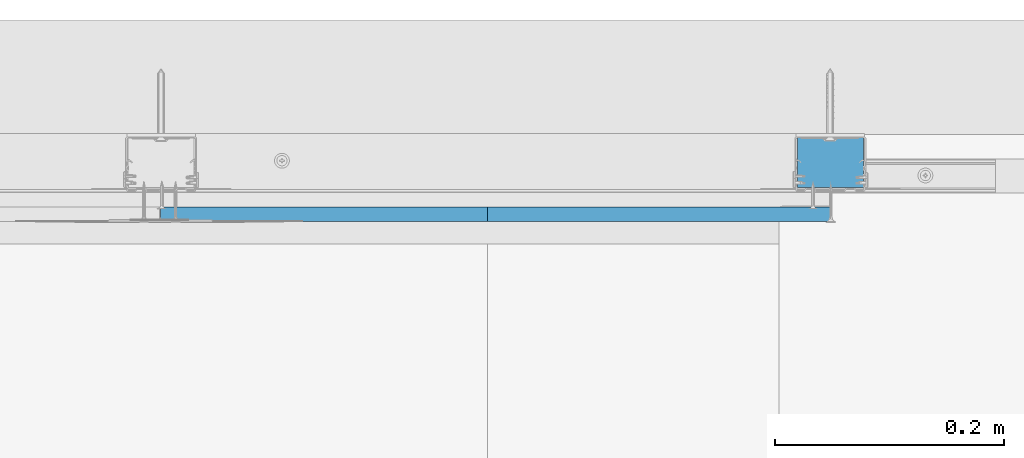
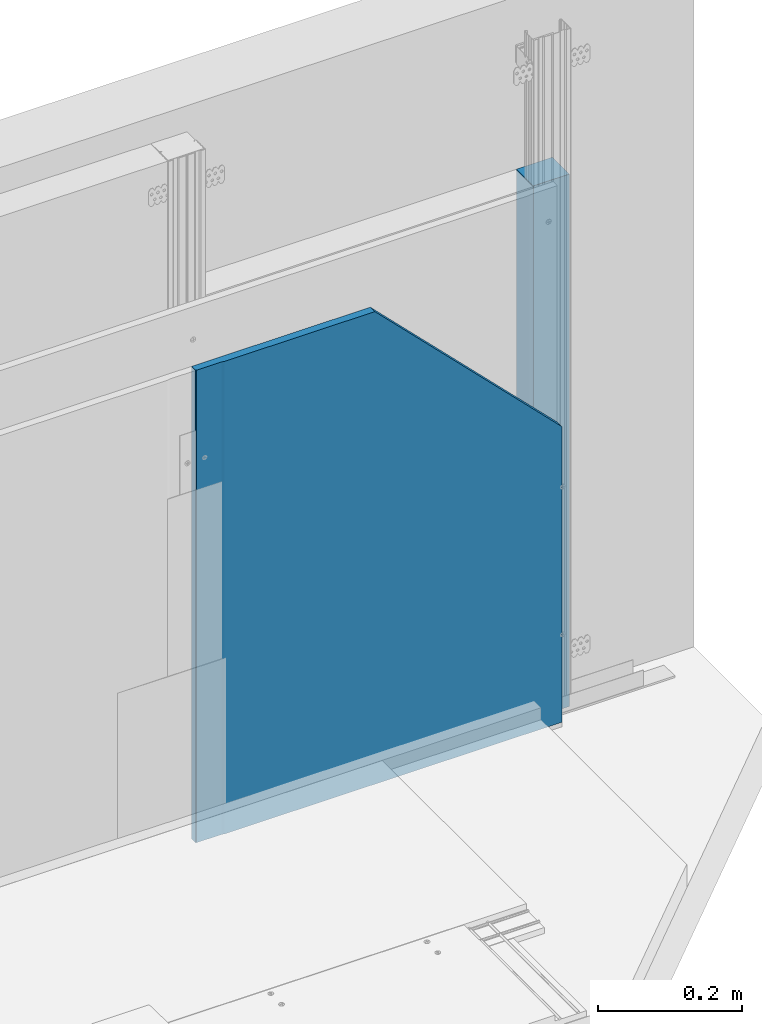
# One storey, part 18 of 47: 2 walls.
"""IFC2X3 building model written with IfcOpenShell, lengths in millimetres."""

from ifc_helpers import new_model, entity, si_unit, converted_unit, direction, frame, origin, origin_with_axes, place, context, project, spatial, faceted_brep, element, save


model = new_model("IFC2X3")

# Units and contexts
model_context = context("Model", 3, precision=1e-05, world=origin(), true_north=direction((0.0, 1.0, 0.0)))
ifc_project = project(units=[si_unit("LENGTHUNIT", "METRE", prefix="MILLI"), si_unit("AREAUNIT", "SQUARE_METRE"), si_unit("VOLUMEUNIT", "CUBIC_METRE"), converted_unit("PLANEANGLEUNIT", "DEGREE", entity("IfcPlaneAngleMeasure", 0.01745), si_unit("PLANEANGLEUNIT", "RADIAN"), dimensions=[0, 0, 0, 0, 0, 0, 0]), si_unit("SOLIDANGLEUNIT", "STERADIAN"), si_unit("MASSUNIT", "GRAM"), si_unit("TIMEUNIT", "SECOND"), si_unit("THERMODYNAMICTEMPERATUREUNIT", "DEGREE_CELSIUS"), si_unit("LUMINOUSINTENSITYUNIT", "LUMEN")], contexts=[model_context])

# Site, building, storey
site_placement = place(None, origin_with_axes())
site = spatial("IfcSite", under=ifc_project, at=site_placement, Name="Default Site", CompositionType="ELEMENT")
building_placement = place(site_placement, origin_with_axes())
building = spatial("IfcBuilding", under=site, at=building_placement, Name="Default Building", CompositionType="ELEMENT")
storey_placement = place(building_placement, origin_with_axes())
storey = spatial("IfcBuildingStorey", under=building, at=storey_placement, Name="Default Building Storey", CompositionType="ELEMENT", Elevation=0.0)

# Walls
wall_1_placement = place(storey_placement, frame((2902.506370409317, 1958.680077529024, 1059.999999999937), z_axis=(0.0, 0.0, 1.0), x_axis=(1.0, 0.0, 0.0)))
element("IfcWall", 1, at=wall_1_placement, inside=storey, Name="Płyta gipsowo-kartonowa RIGIPS PRO (4PRO™)", context=model_context, shape_type="Brep", body=[
    faceted_brep([(585.923278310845, -12.49999999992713, -550.0000000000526), (285.9232783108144, -12.49999999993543, -250.0000000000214), (285.9232783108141, 4.475850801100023e-11, -250.0000000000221), (585.923278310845, 5.306048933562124e-11, -550.0000000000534), (585.9232783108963, -12.5000000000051, -1050.001581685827), (44.99999999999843, -12.50000000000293, -1050.001581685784), (44.99999999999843, -12.50000000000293, -249.9999999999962), (585.9232783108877, -3.609557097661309e-12, -1050.001581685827), (40.99999999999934, -11.50000000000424, -249.9999999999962), (40.99999999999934, -11.50000000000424, -1050.001581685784), (0.9999999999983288, -11.5000000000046, -249.9999999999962), (0.9999999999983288, -11.5000000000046, -1050.001581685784), (0.7411809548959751, -11.46592582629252, -249.9999999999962), (0.7411809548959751, -11.46592582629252, -1050.001581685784), (0.4999999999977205, -11.3660254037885, -249.9999999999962), (0.4999999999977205, -11.3660254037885, -1050.001581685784), (0.29289321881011, -11.20710678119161, -249.9999999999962), (0.29289321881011, -11.20710678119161, -1050.001581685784), (0.1339745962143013, -11.00000000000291, -249.9999999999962), (0.1339745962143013, -11.00000000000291, -1050.001581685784), (0.03407417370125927, -10.7588190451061, -249.9999999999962), (0.03407417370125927, -10.7588190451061, -1050.001581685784), (-3.97051280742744e-12, -10.50000000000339, -249.9999999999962), (-3.97051280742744e-12, -10.50000000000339, -1050.001581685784), (0.0, 0.0, -249.9999999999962), (0.0, 0.0, -1050.001581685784)], [[[0, 1, 2, 3]], [[0, 4, 5, 6, 1]], [[3, 7, 4, 0]], [[8, 6, 5, 9]], [[10, 8, 9, 11]], [[12, 10, 11, 13]], [[14, 12, 13, 15]], [[16, 14, 15, 17]], [[18, 16, 17, 19]], [[20, 18, 19, 21]], [[22, 20, 21, 23]], [[24, 22, 23, 25]], [[25, 7, 3, 2, 24]], [[5, 4, 7, 25, 23, 21, 19, 17, 15, 13, 11, 9]], [[2, 1, 6, 8, 10, 12, 14, 16, 18, 20, 22, 24]]]),
])
wall_2_placement = place(storey_placement, frame((3291.176545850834, 5350.424146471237, -1.543597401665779), z_axis=(0.0, 0.0, 1.0), x_axis=(-1.0, 4.718447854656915e-16, 0.0)))
element("IfcWall", 2, at=wall_2_placement, inside=storey, Name="Wypełnienie wełny mineralnej szklanej lub skalnej ISOVER", context=model_context, shape_type="Brep", body=[
    faceted_brep([(-168.1247796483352, 3327.645535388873, 911.5435974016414), (-225.8247796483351, 3327.645535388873, 911.5435974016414), (-225.8247796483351, 3327.645535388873, 10.28402578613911), (-168.1247796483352, 3327.645535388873, 10.28402578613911), (-168.124779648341, 3370.612995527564, 10.28402578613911), (-168.124779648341, 3370.612995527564, 911.5435974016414), (-225.8247796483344, 3374.8332237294, 911.5435974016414), (-168.1247796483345, 3374.833223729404, 911.5435974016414), (-168.1247796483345, 3374.833223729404, 10.28402578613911), (-225.8247796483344, 3374.8332237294, 10.28402578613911)], [[[0, 1, 2, 3]], [[3, 4, 5, 0]], [[6, 7, 8, 9]], [[1, 6, 9, 2]], [[8, 4, 3, 2, 9]], [[1, 0, 5, 7, 6]], [[5, 4, 8, 7]]]),
])

save(model, "model.ifc")
